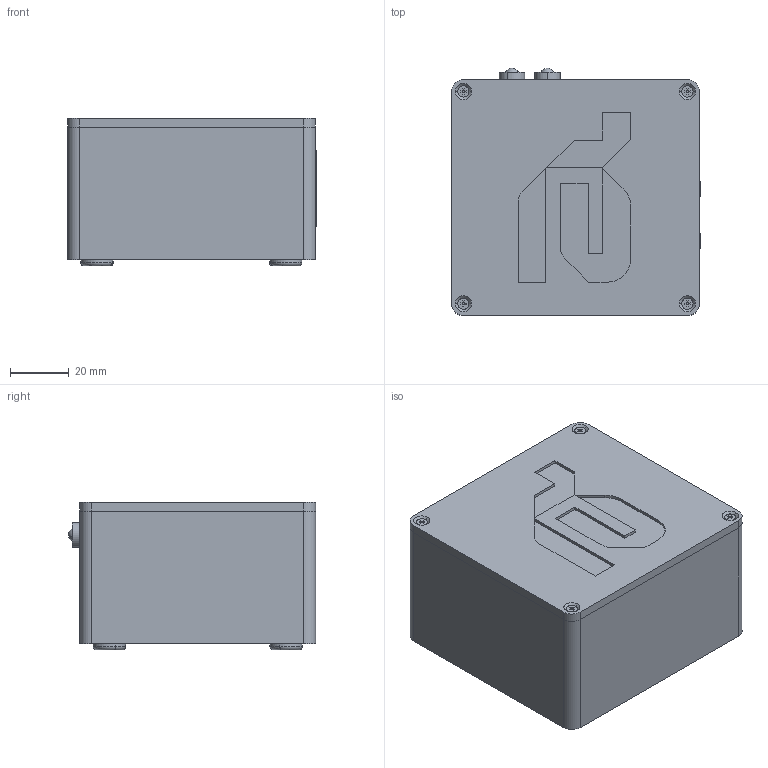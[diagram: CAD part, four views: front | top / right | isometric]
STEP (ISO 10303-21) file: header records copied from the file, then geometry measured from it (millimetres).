
FILE_DESCRIPTION (( 'STEP AP214' ), '1' );
FILE_NAME ('astorino_SimBox.STEP', '2024-05-02T08:39:37', ( '' ), ( '' ), 'SwSTEP 2.0', 'SolidWorks 2021', '' );
FILE_SCHEMA (( 'AUTOMOTIVE_DESIGN' ));
Length unit declared in the file: millimetre
Products named in the file (1): astorino_SimBox
Bounding box: 84.4 x 83.9 x 50 mm (x, y, z)
Surface area: 48624.8 mm2 (no closed solid volume)
Topology: 0 solids, 36 shells, 571 faces, 2406 edges, 1845 vertices
Faces by surface type: plane 425, cylinder 93, cone 36, torus 12, bspline 5
Entity records: 32420 total; most frequent: CARTESIAN_POINT 6463, DIRECTION 4010, ORIENTED_EDGE 3443, EDGE_CURVE 2398, VERTEX_POINT 1845, VECTOR 1614, LINE 1614, AXIS2_PLACEMENT_3D 1198
